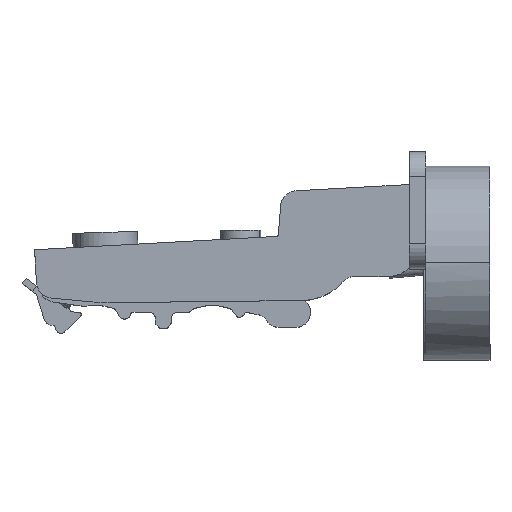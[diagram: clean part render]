
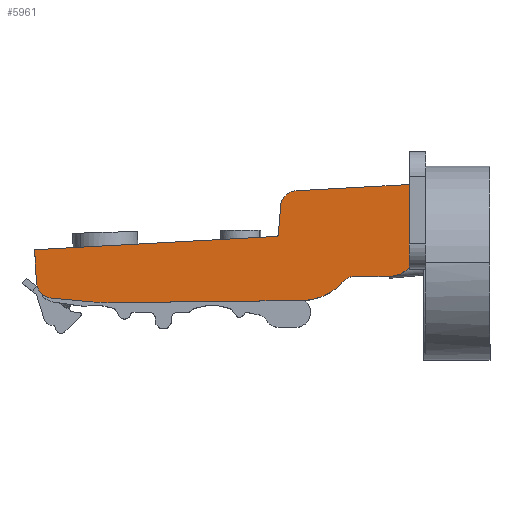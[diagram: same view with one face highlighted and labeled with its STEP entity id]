
A CAD part, top view. The second image highlights one B-rep face of the part: STEP entity #5961.
In plain terms, the highlighted planar face has unit normal (0, 0, 1).
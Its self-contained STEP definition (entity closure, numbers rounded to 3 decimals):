
#6 = LINE ( 'NONE', #5604, #2872 ) ;
#61 = DIRECTION ( 'NONE',  ( 1., 0., 0. ) ) ;
#62 = AXIS2_PLACEMENT_3D ( 'NONE', #1697, #4623, #61 ) ;
#186 = DIRECTION ( 'NONE',  ( 1., 0., 0. ) ) ;
#221 = DIRECTION ( 'NONE',  ( 0., 0., 1. ) ) ;
#255 = DIRECTION ( 'NONE',  ( 1., 0., 0. ) ) ;
#271 = VERTEX_POINT ( 'NONE', #4606 ) ;
#283 = AXIS2_PLACEMENT_3D ( 'NONE', #6245, #661, #1265 ) ;
#297 = CARTESIAN_POINT ( 'NONE',  ( -14.998, 17.794, 8.5 ) ) ;
#327 = CIRCLE ( 'NONE', #4040, 4.5 ) ;
#346 = AXIS2_PLACEMENT_3D ( 'NONE', #2180, #1753, #186 ) ;
#391 = DIRECTION ( 'NONE',  ( 0.996, -0.093, 0. ) ) ;
#431 = CIRCLE ( 'NONE', #5333, 0.5 ) ;
#489 = AXIS2_PLACEMENT_3D ( 'NONE', #2329, #1709, #5270 ) ;
#642 = EDGE_CURVE ( 'NONE', #1915, #271, #3566, .T. ) ;
#661 = DIRECTION ( 'NONE',  ( 0., 0., 1. ) ) ;
#683 = DIRECTION ( 'NONE',  ( 1., 0., 0. ) ) ;
#781 = CARTESIAN_POINT ( 'NONE',  ( -4.905, 2.375, 8.5 ) ) ;
#793 = DIRECTION ( 'NONE',  ( 0., 0., -1. ) ) ;
#836 = VECTOR ( 'NONE', #391, 1000. ) ;
#878 = CARTESIAN_POINT ( 'NONE',  ( -48.344, -2.287, 8.5 ) ) ;
#945 = LINE ( 'NONE', #878, #2763 ) ;
#976 = CARTESIAN_POINT ( 'NONE',  ( -0.519, 18.589, 8.5 ) ) ;
#989 = DIRECTION ( 'NONE',  ( -0.998, -0.055, 0. ) ) ;
#1032 = DIRECTION ( 'NONE',  ( 0., -1., 0. ) ) ;
#1035 = ORIENTED_EDGE ( 'NONE', *, *, #1133, .T. ) ;
#1056 = CARTESIAN_POINT ( 'NONE',  ( -22.489, 9.378, 8.5 ) ) ;
#1122 = CARTESIAN_POINT ( 'NONE',  ( 1.847, 2.451, 8.5 ) ) ;
#1133 = EDGE_CURVE ( 'NONE', #6417, #3716, #3897, .T. ) ;
#1265 = DIRECTION ( 'NONE',  ( 1., 0., 0. ) ) ;
#1275 = ORIENTED_EDGE ( 'NONE', *, *, #3944, .F. ) ;
#1338 = VERTEX_POINT ( 'NONE', #2754 ) ;
#1474 = LINE ( 'NONE', #3502, #1715 ) ;
#1525 = ORIENTED_EDGE ( 'NONE', *, *, #3619, .T. ) ;
#1632 = CARTESIAN_POINT ( 'NONE',  ( 1.797, 6.95, 8.5 ) ) ;
#1697 = CARTESIAN_POINT ( 'NONE',  ( -14.067, 8.098, 8.5 ) ) ;
#1709 = DIRECTION ( 'NONE',  ( 0., 0., 1. ) ) ;
#1715 = VECTOR ( 'NONE', #5544, 1000. ) ;
#1752 = VERTEX_POINT ( 'NONE', #781 ) ;
#1753 = DIRECTION ( 'NONE',  ( 0., 0., -1. ) ) ;
#1915 = VERTEX_POINT ( 'NONE', #5608 ) ;
#2060 = CARTESIAN_POINT ( 'NONE',  ( -61.617, 1.172, 8.5 ) ) ;
#2112 = DIRECTION ( 'NONE',  ( -0.998, -0.055, 0. ) ) ;
#2180 = CARTESIAN_POINT ( 'NONE',  ( -4.882, 0.375, 8.5 ) ) ;
#2201 = AXIS2_PLACEMENT_3D ( 'NONE', #4348, #221, #255 ) ;
#2208 = PLANE ( 'NONE',  #489 ) ;
#2290 = ORIENTED_EDGE ( 'NONE', *, *, #5157, .T. ) ;
#2329 = CARTESIAN_POINT ( 'NONE',  ( -14.834, 14.798, 8.5 ) ) ;
#2352 = EDGE_CURVE ( 'NONE', #1338, #2475, #6387, .T. ) ;
#2475 = VERTEX_POINT ( 'NONE', #5324 ) ;
#2548 = VERTEX_POINT ( 'NONE', #5290 ) ;
#2556 = CARTESIAN_POINT ( 'NONE',  ( -18.204, 10.049, 8.5 ) ) ;
#2624 = CARTESIAN_POINT ( 'NONE',  ( -18.675, 9.588, 8.5 ) ) ;
#2706 = CARTESIAN_POINT ( 'NONE',  ( -4.905, 2.375, 8.5 ) ) ;
#2747 = AXIS2_PLACEMENT_3D ( 'NONE', #6134, #4115, #683 ) ;
#2754 = CARTESIAN_POINT ( 'NONE',  ( -51.481, -2.158, 8.5 ) ) ;
#2763 = VECTOR ( 'NONE', #5963, 1000. ) ;
#2832 = FACE_OUTER_BOUND ( 'NONE', #6551, .T. ) ;
#2872 = VECTOR ( 'NONE', #1032, 1000. ) ;
#2876 = EDGE_CURVE ( 'NONE', #3716, #1338, #5489, .T. ) ;
#2940 = ORIENTED_EDGE ( 'NONE', *, *, #6281, .T. ) ;
#3049 = EDGE_CURVE ( 'NONE', #5485, #6417, #5835, .T. ) ;
#3125 = DIRECTION ( 'NONE',  ( 1., 0., 0. ) ) ;
#3155 = CIRCLE ( 'NONE', #283, 3. ) ;
#3173 = EDGE_CURVE ( 'NONE', #2475, #1915, #945, .T. ) ;
#3305 = ORIENTED_EDGE ( 'NONE', *, *, #2352, .T. ) ;
#3328 = CARTESIAN_POINT ( 'NONE',  ( -18.703, 10.087, 8.5 ) ) ;
#3502 = CARTESIAN_POINT ( 'NONE',  ( -17.825, 15.026, 8.5 ) ) ;
#3566 = CIRCLE ( 'NONE', #62, 10. ) ;
#3619 = EDGE_CURVE ( 'NONE', #2548, #3962, #1474, .T. ) ;
#3665 = VERTEX_POINT ( 'NONE', #6187 ) ;
#3716 = VERTEX_POINT ( 'NONE', #5647 ) ;
#3749 = VERTEX_POINT ( 'NONE', #5429 ) ;
#3841 = DIRECTION ( 'NONE',  ( 0.055, -0.998, 0. ) ) ;
#3850 = VECTOR ( 'NONE', #2112, 1000. ) ;
#3897 = CIRCLE ( 'NONE', #2201, 3. ) ;
#3898 = VERTEX_POINT ( 'NONE', #2624 ) ;
#3944 = EDGE_CURVE ( 'NONE', #3749, #3665, #6, .T. ) ;
#3962 = VERTEX_POINT ( 'NONE', #2556 ) ;
#3985 = EDGE_CURVE ( 'NONE', #3962, #3898, #431, .T. ) ;
#4009 = ORIENTED_EDGE ( 'NONE', *, *, #4999, .T. ) ;
#4040 = AXIS2_PLACEMENT_3D ( 'NONE', #1632, #4118, #3125 ) ;
#4076 = ORIENTED_EDGE ( 'NONE', *, *, #3985, .T. ) ;
#4115 = DIRECTION ( 'NONE',  ( 0., 0., 1. ) ) ;
#4118 = DIRECTION ( 'NONE',  ( 0., 0., 1. ) ) ;
#4274 = ORIENTED_EDGE ( 'NONE', *, *, #642, .T. ) ;
#4306 = EDGE_CURVE ( 'NONE', #6547, #3665, #327, .T. ) ;
#4312 = DIRECTION ( 'NONE',  ( 1., 0.011, 0. ) ) ;
#4348 = CARTESIAN_POINT ( 'NONE',  ( -58.638, 1.526, 8.5 ) ) ;
#4428 = ORIENTED_EDGE ( 'NONE', *, *, #4306, .T. ) ;
#4536 = ORIENTED_EDGE ( 'NONE', *, *, #4849, .T. ) ;
#4551 = CARTESIAN_POINT ( 'NONE',  ( -58.918, -1.461, 8.5 ) ) ;
#4605 = VECTOR ( 'NONE', #4312, 1000. ) ;
#4606 = CARTESIAN_POINT ( 'NONE',  ( -6.413, 1.662, 8.5 ) ) ;
#4623 = DIRECTION ( 'NONE',  ( 0., 0., 1. ) ) ;
#4692 = ORIENTED_EDGE ( 'NONE', *, *, #3173, .T. ) ;
#4849 = EDGE_CURVE ( 'NONE', #1752, #6547, #6300, .T. ) ;
#4999 = EDGE_CURVE ( 'NONE', #271, #1752, #5245, .T. ) ;
#5157 = EDGE_CURVE ( 'NONE', #3749, #6353, #5652, .T. ) ;
#5245 = CIRCLE ( 'NONE', #346, 2. ) ;
#5270 = DIRECTION ( 'NONE',  ( 1., 0., 0. ) ) ;
#5281 = CARTESIAN_POINT ( 'NONE',  ( -61.948, 7.211, 8.5 ) ) ;
#5290 = CARTESIAN_POINT ( 'NONE',  ( -17.825, 15.026, 8.5 ) ) ;
#5324 = CARTESIAN_POINT ( 'NONE',  ( -48.344, -2.287, 8.5 ) ) ;
#5333 = AXIS2_PLACEMENT_3D ( 'NONE', #3328, #793, #5880 ) ;
#5424 = VECTOR ( 'NONE', #3841, 1000. ) ;
#5429 = CARTESIAN_POINT ( 'NONE',  ( 5.255, 18.906, 8.5 ) ) ;
#5452 = ORIENTED_EDGE ( 'NONE', *, *, #3049, .T. ) ;
#5485 = VERTEX_POINT ( 'NONE', #5281 ) ;
#5489 = LINE ( 'NONE', #4551, #836 ) ;
#5544 = DIRECTION ( 'NONE',  ( -0.076, -0.997, 0. ) ) ;
#5604 = CARTESIAN_POINT ( 'NONE',  ( 5.255, 14.798, 8.5 ) ) ;
#5608 = CARTESIAN_POINT ( 'NONE',  ( -13.954, -1.901, 8.5 ) ) ;
#5647 = CARTESIAN_POINT ( 'NONE',  ( -58.918, -1.461, 8.5 ) ) ;
#5652 = LINE ( 'NONE', #976, #3850 ) ;
#5671 = LINE ( 'NONE', #1056, #5936 ) ;
#5757 = ORIENTED_EDGE ( 'NONE', *, *, #6477, .T. ) ;
#5802 = CARTESIAN_POINT ( 'NONE',  ( -61.899, 6.312, 8.5 ) ) ;
#5835 = LINE ( 'NONE', #5802, #5424 ) ;
#5880 = DIRECTION ( 'NONE',  ( 1., 0., 0. ) ) ;
#5936 = VECTOR ( 'NONE', #989, 1000. ) ;
#5961 = ADVANCED_FACE ( 'NONE', ( #2832 ), #2208, .T. ) ;
#5963 = DIRECTION ( 'NONE',  ( 1., 0.011, 0. ) ) ;
#6134 = CARTESIAN_POINT ( 'NONE',  ( -48.681, 27.711, 8.5 ) ) ;
#6187 = CARTESIAN_POINT ( 'NONE',  ( 5.255, 4.072, 8.5 ) ) ;
#6245 = CARTESIAN_POINT ( 'NONE',  ( -14.834, 14.798, 8.5 ) ) ;
#6281 = EDGE_CURVE ( 'NONE', #6353, #2548, #3155, .T. ) ;
#6300 = LINE ( 'NONE', #2706, #4605 ) ;
#6353 = VERTEX_POINT ( 'NONE', #297 ) ;
#6387 = CIRCLE ( 'NONE', #2747, 30. ) ;
#6417 = VERTEX_POINT ( 'NONE', #2060 ) ;
#6477 = EDGE_CURVE ( 'NONE', #3898, #5485, #5671, .T. ) ;
#6547 = VERTEX_POINT ( 'NONE', #1122 ) ;
#6551 = EDGE_LOOP ( 'NONE', ( #1275, #2290, #2940, #1525, #4076, #5757, #5452, #1035, #6562, #3305, #4692, #4274, #4009, #4536, #4428 ) ) ;
#6562 = ORIENTED_EDGE ( 'NONE', *, *, #2876, .T. ) ;
